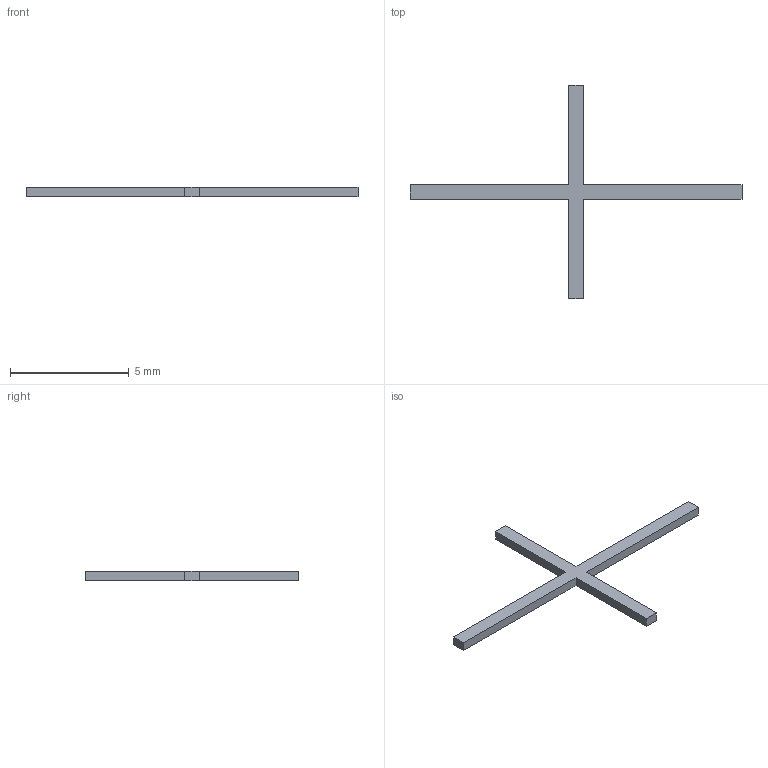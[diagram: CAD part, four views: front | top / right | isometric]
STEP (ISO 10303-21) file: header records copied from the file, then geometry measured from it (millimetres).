
FILE_DESCRIPTION(('Open CASCADE Model'),'2;1');
FILE_NAME('Open CASCADE Shape Model','2026-11-05T01:23:31',('Author'),( 'Open CASCADE'),'Open CASCADE STEP processor 7.8','Open CASCADE 7.8' ,'Unknown');
FILE_SCHEMA(('AUTOMOTIVE_DESIGN { 1 0 10303 214 1 1 1 1 }'));
Length unit declared in the file: millimetre
Products named in the file (1): Open CASCADE STEP translator 7.8 26
Bounding box: 14 x 9 x 0.4 mm (x, y, z)
Volume: 5.4 mm3; surface area: 45.3 mm2
Topology: 1 solids, 1 shells, 14 faces, 36 edges, 24 vertices
Faces by surface type: plane 14
Entity records: 898 total; most frequent: CARTESIAN_POINT 147, DIRECTION 138, LINE 108, VECTOR 108, ORIENTED_EDGE 72, PCURVE 72, DEFINITIONAL_REPRESENTATION 72, EDGE_CURVE 36
